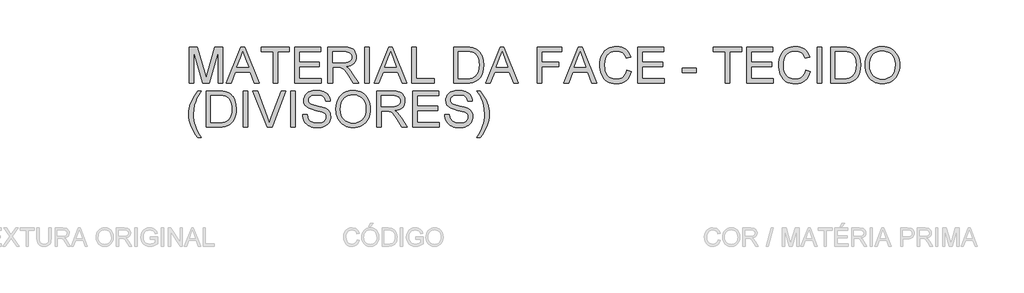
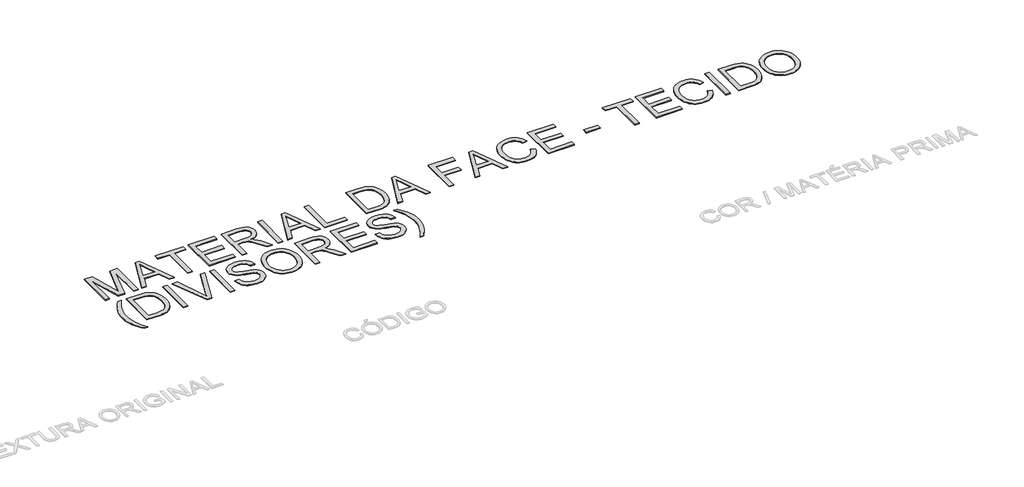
# One storey, part 55 of 67: 1 proxy.
"""IFC4 building model written with IfcOpenShell, lengths in millimetres."""

from ifc_helpers import new_model, si_unit, origin, origin_with_axes, place, context, project, spatial, polyline, outline, extrude, element, save

model = new_model("IFC4")

# Units and contexts
model_context = context("Model", 3, world=origin())
ifc_project = project(units=[si_unit("LENGTHUNIT", "METRE", prefix="MILLI")], contexts=[model_context])

# Site, building, storey
site = spatial("IfcSite", under=ifc_project)
building = spatial("IfcBuilding", under=site)
storey = spatial("IfcBuildingStorey", under=building, Name="Marelli - Linha COLAB - Planta Baixa", Elevation=0.0)

# Proxy
placement = place(None, origin())
element("IfcBuildingElementProxy", 1, Name="600mm Arial", ObjectType="600mm Arial", at=placement, inside=storey, context=model_context, shape_type="SweptSolid", body=[
    extrude(outline(polyline([(-2493.6164873, -21064.6418665), (-2493.6164873, -20461.9040056), (-2363.9748722, -20461.9040056), (-2240.6608274, -20886.7341337), (-2215.7920046, -20975.4672709), (-2188.8630425, -20879.3764938), (-2067.6091369, -20461.9040056), (-1937.9675218, -20461.9040056), (-1937.9675218, -21064.6418665), (-2013.3097544, -21064.6418665), (-2013.3097544, -20537.2462382), (-2164.7299836, -21064.6418665), (-2266.8540255, -21064.6418665), (-2418.2742547, -20537.2462382), (-2418.2742547, -21064.6418665), (-2493.6164873, -21064.6418665)])), origin_with_axes(), (0.0, 0.0, 1.0), 10.0),
    extrude(outline(polyline([(-1876.3104994, -21064.6418665), (-1635.7156746, -20461.9040056), (-1571.5570546, -20461.9040056), (-1330.9622298, -21064.6418665), (-1410.5718935, -21064.6418665), (-1479.5865558, -20876.286285), (-1727.8333261, -20876.286285), (-1796.7008356, -21064.6418665), (-1876.3104994, -21064.6418665)]), holes=[polyline([(-1700.1686001, -20800.9440524), (-1507.104129, -20800.9440524), (-1561.4035115, -20652.7611847), (-1603.6363646, -20537.2462382), (-1641.1603281, -20639.8117385), (-1700.1686001, -20800.9440524)])]), origin_with_axes(), (0.0, 0.0, 1.0), 10.0),
    extrude(outline(polyline([(-1099.785184, -21064.6418665), (-1099.785184, -20537.2462382), (-1297.5585446, -20537.2462382), (-1297.5585446, -20461.9040056), (-826.6695908, -20461.9040056), (-826.6695908, -20537.2462382), (-1024.4429514, -20537.2462382), (-1024.4429514, -21064.6418665), (-1099.785184, -21064.6418665)])), origin_with_axes(), (0.0, 0.0, 1.0), 10.0),
    extrude(outline(polyline([(-741.9095791, -21064.6418665), (-741.9095791, -20461.9040056), (-308.6917416, -20461.9040056), (-308.6917416, -20537.2462382), (-666.5673465, -20537.2462382), (-666.5673465, -20716.1840407), (-327.5272997, -20716.1840407), (-327.5272997, -20791.5262733), (-666.5673465, -20791.5262733), (-666.5673465, -20989.2996339), (-299.2739625, -20989.2996339), (-299.2739625, -21064.6418665), (-741.9095791, -21064.6418665)])), origin_with_axes(), (0.0, 0.0, 1.0), 10.0),
    extrude(outline(polyline([(-186.2606136, -21064.6418665), (-186.2606136, -20461.9040056), (73.464075, -20461.9040056), (143.2696836, -20465.9691017), (194.0557931, -20478.1643898), (213.6547063, -20487.8580804), (231.1750864, -20500.6787679), (246.6169331, -20516.6264524), (259.9802466, -20535.7011339), (270.7637876, -20556.8773412), (278.4663168, -20579.1296034), (283.0878344, -20602.4579204), (284.6283403, -20626.8622923), (282.0761589, -20657.8195622), (274.4196149, -20686.2384463), (261.6587082, -20712.1189447), (243.7934388, -20735.4610572), (220.5938805, -20755.519823), (191.830107, -20771.550281), (157.5021183, -20783.5524311), (117.6099145, -20791.5262733), (142.4419491, -20807.7498693), (160.4313787, -20823.7527361), (191.2966781, -20860.3569946), (221.4997899, -20901.3022607), (322.005151, -21064.6418665), (234.4492361, -21064.6418665), (156.0167948, -20939.709141), (99.3629675, -20857.0092685), (78.3017233, -20832.8946037), (59.5581356, -20817.9402006), (23.7264293, -20803.5928028), (-19.9779517, -20800.9440524), (-110.9183809, -20800.9440524), (-110.9183809, -21064.6418665), (-186.2606136, -21064.6418665)]), holes=[polyline([(-110.9183809, -20725.6018198), (57.7187256, -20725.6018198), (106.1503903, -20722.9346753), (143.7295361, -20714.9332419), (172.0196615, -20701.0640907), (192.5842651, -20680.7937928), (205.110647, -20656.2744578), (209.2861077, -20629.6581954), (207.2949464, -20610.3903759), (201.3214625, -20592.9067841), (191.365656, -20577.20742), (177.4275269, -20563.2922835), (159.1851784, -20551.8971387), (136.3167139, -20543.7577496), (108.8221333, -20538.8741161), (76.7014366, -20537.2462382), (-110.9183809, -20537.2462382), (-110.9183809, -20725.6018198)])]), origin_with_axes(), (0.0, 0.0, 1.0), 10.0),
    extrude(outline(polyline([(425.8950264, -21064.6418665), (425.8950264, -20461.9040056), (501.237259, -20461.9040056), (501.237259, -21064.6418665), (425.8950264, -21064.6418665)])), origin_with_axes(), (0.0, 0.0, 1.0), 10.0),
    extrude(outline(polyline([(581.7298396, -21064.6418665), (822.3246644, -20461.9040056), (886.4832844, -20461.9040056), (1127.0781092, -21064.6418665), (1047.4684455, -21064.6418665), (978.4537832, -20876.286285), (730.2070128, -20876.286285), (661.3395033, -21064.6418665), (581.7298396, -21064.6418665)]), holes=[polyline([(757.8717389, -20800.9440524), (950.9362099, -20800.9440524), (896.6368274, -20652.7611847), (854.4039744, -20537.2462382), (816.8800109, -20639.8117385), (757.8717389, -20800.9440524)])]), origin_with_axes(), (0.0, 0.0, 1.0), 10.0),
    extrude(outline(polyline([(1207.5706898, -21064.6418665), (1207.5706898, -20461.9040056), (1282.9129224, -20461.9040056), (1282.9129224, -20989.2996339), (1584.2818528, -20989.2996339), (1584.2818528, -21064.6418665), (1207.5706898, -21064.6418665)])), origin_with_axes(), (0.0, 0.0, 1.0), 10.0),
    extrude(outline(polyline([(1904.4863414, -21064.6418665), (1904.4863414, -20461.9040056), (2112.4132451, -20461.9040056), (2174.5485141, -20464.0745094), (2219.9819405, -20470.5860207), (2268.0273291, -20487.3246515), (2308.5679249, -20513.7017906), (2330.9075591, -20535.2596755), (2350.248955, -20559.6134636), (2366.5921126, -20586.7631548), (2379.937032, -20616.7087492), (2390.3021072, -20649.1743353), (2397.7057324, -20683.8840015), (2403.6286325, -20760.0355745), (2399.6187187, -20824.7276234), (2387.5889775, -20881.6573621), (2369.2684541, -20930.125815), (2346.386194, -20969.4340062), (2320.0458432, -21000.4648525), (2291.3510476, -21024.1012707), (2258.4072149, -21041.6308477), (2219.3197529, -21054.3411707), (2174.0150852, -21062.0666926), (2122.4196354, -21064.6418665), (1904.4863414, -21064.6418665)]), holes=[polyline([(1979.828574, -20989.2996339), (2113.1490091, -20989.2996339), (2168.2945202, -20986.5773072), (2210.122703, -20978.4103269), (2241.6869782, -20965.2769396), (2266.0407663, -20947.6553921), (2292.2155702, -20915.0426532), (2311.8788629, -20872.8281942), (2324.1845156, -20820.8280742), (2328.2863999, -20758.8583521), (2326.2768445, -20715.1171829), (2320.2481783, -20676.7470908), (2310.2004013, -20643.7480759), (2296.1335135, -20616.120138), (2279.1879491, -20593.2378779), (2260.5041423, -20574.4758962), (2240.082093, -20559.8341928), (2217.9218013, -20549.3127677), (2174.5853023, -20540.2628706), (2111.0888699, -20537.2462382), (1979.828574, -20537.2462382), (1979.828574, -20989.2996339)])]), origin_with_axes(), (0.0, 0.0, 1.0), 10.0),
    extrude(outline(polyline([(2437.0323176, -21064.6418665), (2677.6271425, -20461.9040056), (2741.7857625, -20461.9040056), (2982.3805873, -21064.6418665), (2902.7709235, -21064.6418665), (2833.7562612, -20876.286285), (2585.5094909, -20876.286285), (2516.6419814, -21064.6418665), (2437.0323176, -21064.6418665)]), holes=[polyline([(2613.1742169, -20800.9440524), (2806.238688, -20800.9440524), (2751.9393055, -20652.7611847), (2709.7064525, -20537.2462382), (2672.182489, -20639.8117385), (2613.1742169, -20800.9440524)])]), origin_with_axes(), (0.0, 0.0, 1.0), 10.0),
    extrude(outline(polyline([(3298.3176448, -21064.6418665), (3298.3176448, -20461.9040056), (3703.282145, -20461.9040056), (3703.282145, -20537.2462382), (3373.6598774, -20537.2462382), (3373.6598774, -20716.1840407), (3656.1932497, -20716.1840407), (3656.1932497, -20791.5262733), (3373.6598774, -20791.5262733), (3373.6598774, -21064.6418665), (3298.3176448, -21064.6418665)])), origin_with_axes(), (0.0, 0.0, 1.0), 10.0),
    extrude(outline(polyline([(3736.6858302, -21064.6418665), (3977.2806551, -20461.9040056), (4041.439275, -20461.9040056), (4282.0340999, -21064.6418665), (4202.4244361, -21064.6418665), (4133.4097738, -20876.286285), (3885.1630035, -20876.286285), (3816.295494, -21064.6418665), (3736.6858302, -21064.6418665)]), holes=[polyline([(3912.8277295, -20800.9440524), (4105.8922006, -20800.9440524), (4051.5928181, -20652.7611847), (4009.359965, -20537.2462382), (3971.8360015, -20639.8117385), (3912.8277295, -20800.9440524)])]), origin_with_axes(), (0.0, 0.0, 1.0), 10.0),
    extrude(outline(polyline([(4786.3267388, -20850.3873925), (4861.6689715, -20869.8115619), (4846.7605536, -20916.6659325), (4826.9041229, -20957.6066), (4802.0996794, -20992.6335645), (4772.347223, -21021.7468259), (4738.3181385, -21044.6336845), (4700.6838104, -21060.9814407), (4659.4442387, -21070.7900944), (4614.5994235, -21074.0596456), (4568.6555608, -21071.5856392), (4527.2090555, -21064.1636199), (4490.2599077, -21051.7935879), (4457.8081172, -21034.4755429), (4429.4076271, -21012.4670026), (4404.6123807, -20986.0254842), (4383.4223777, -20955.1509877), (4365.8376184, -20919.8435132), (4352.028248, -20881.629771), (4342.164412, -20842.0364713), (4336.2461104, -20801.063614), (4334.2733432, -20758.7111993), (4336.5036278, -20713.2685759), (4343.1944816, -20670.8241907), (4354.3459045, -20631.3780438), (4369.9578967, -20594.9301351), (4389.6809702, -20562.0828714), (4413.165637, -20533.4386596), (4440.4118973, -20508.9974995), (4471.419751, -20488.7593913), (4505.1361358, -20472.8898817), (4540.5079897, -20461.5545177), (4577.5353125, -20454.7532994), (4616.2181043, -20452.4862266), (4659.3108815, -20455.4200855), (4698.8260063, -20464.2216622), (4734.7634787, -20478.8909568), (4767.1232987, -20499.4279691), (4795.3720374, -20525.2900734), (4818.9762659, -20555.9346436), (4837.9359842, -20591.3616797), (4852.2511924, -20631.5711818), (4776.9089598, -20649.5238232), (4765.0447654, -20619.895527), (4750.7893381, -20594.5806472), (4734.1426778, -20573.5791838), (4715.1047846, -20556.8911368), (4693.5652938, -20544.1762153), (4669.4138408, -20535.0941286), (4642.6504256, -20529.6448765), (4613.2750483, -20527.8284592), (4579.47589, -20529.8426131), (4548.5646054, -20535.8850749), (4520.5411944, -20545.9558445), (4495.4056571, -20560.0549219), (4473.4752916, -20577.5477108), (4455.0673963, -20597.7996147), (4440.1819711, -20620.8106335), (4428.8190159, -20646.5807672), (4414.4164358, -20701.7262783), (4409.6155758, -20758.5640465), (4415.2993526, -20828.16732), (4422.4040736, -20859.4372896), (4432.3506831, -20888.3528144), (4445.3001293, -20914.3390789), (4461.4133607, -20936.8212673), (4480.6903773, -20955.7993797), (4503.131179, -20971.2734162), (4527.6459154, -20983.2801648), (4553.1447362, -20991.8564138), (4579.6276413, -20997.0021632), (4607.0946308, -20998.717413), (4639.8499239, -20996.3813623), (4669.9840579, -20989.3732103), (4697.4970326, -20977.692957), (4722.3888481, -20961.3406023), (4744.0708932, -20940.3897227), (4761.9545567, -20914.9138945), (4776.0398386, -20884.9131178), (4786.3267388, -20850.3873925)])), origin_with_axes(), (0.0, 0.0, 1.0), 10.0),
    extrude(outline(polyline([(4965.2645413, -21064.6418665), (4965.2645413, -20461.9040056), (5398.4823788, -20461.9040056), (5398.4823788, -20537.2462382), (5040.6067739, -20537.2462382), (5040.6067739, -20716.1840407), (5379.6468207, -20716.1840407), (5379.6468207, -20791.5262733), (5040.6067739, -20791.5262733), (5040.6067739, -20989.2996339), (5407.9001579, -20989.2996339), (5407.9001579, -21064.6418665), (4965.2645413, -21064.6418665)])), origin_with_axes(), (0.0, 0.0, 1.0), 10.0),
    extrude(outline(polyline([(5709.2690883, -20885.7040641), (5709.2690883, -20810.3618315), (5944.7135653, -20810.3618315), (5944.7135653, -20885.7040641), (5709.2690883, -20885.7040641)])), origin_with_axes(), (0.0, 0.0, 1.0), 10.0),
    extrude(outline(polyline([(6425.0202982, -21064.6418665), (6425.0202982, -20537.2462382), (6227.2469376, -20537.2462382), (6227.2469376, -20461.9040056), (6698.1358914, -20461.9040056), (6698.1358914, -20537.2462382), (6500.3625308, -20537.2462382), (6500.3625308, -21064.6418665), (6425.0202982, -21064.6418665)])), origin_with_axes(), (0.0, 0.0, 1.0), 10.0),
    extrude(outline(polyline([(6782.8959031, -21064.6418665), (6782.8959031, -20461.9040056), (7216.1137406, -20461.9040056), (7216.1137406, -20537.2462382), (6858.2381357, -20537.2462382), (6858.2381357, -20716.1840407), (7197.2781824, -20716.1840407), (7197.2781824, -20791.5262733), (6858.2381357, -20791.5262733), (6858.2381357, -20989.2996339), (7225.5315197, -20989.2996339), (7225.5315197, -21064.6418665), (6782.8959031, -21064.6418665)])), origin_with_axes(), (0.0, 0.0, 1.0), 10.0),
    extrude(outline(polyline([(7762.344927, -20850.3873925), (7837.6871596, -20869.8115619), (7822.7787418, -20916.6659325), (7802.9223111, -20957.6066), (7778.1178676, -20992.6335645), (7748.3654112, -21021.7468259), (7714.3363267, -21044.6336845), (7676.7019986, -21060.9814407), (7635.4624269, -21070.7900944), (7590.6176117, -21074.0596456), (7544.673749, -21071.5856392), (7503.2272437, -21064.1636199), (7466.2780958, -21051.7935879), (7433.8263053, -21034.4755429), (7405.4258153, -21012.4670026), (7380.6305688, -20986.0254842), (7359.4405659, -20955.1509877), (7341.8558065, -20919.8435132), (7328.0464361, -20881.629771), (7318.1826002, -20842.0364713), (7312.2642986, -20801.063614), (7310.2915314, -20758.7111993), (7312.521816, -20713.2685759), (7319.2126697, -20670.8241907), (7330.3640927, -20631.3780438), (7345.9760849, -20594.9301351), (7365.6991584, -20562.0828714), (7389.1838252, -20533.4386596), (7416.4300855, -20508.9974995), (7447.4379392, -20488.7593913), (7481.154324, -20472.8898817), (7516.5261779, -20461.5545177), (7553.5535007, -20454.7532994), (7592.2362925, -20452.4862266), (7635.3290697, -20455.4200855), (7674.8441945, -20464.2216622), (7710.7816669, -20478.8909568), (7743.1414869, -20499.4279691), (7771.3902256, -20525.2900734), (7794.9944541, -20555.9346436), (7813.9541724, -20591.3616797), (7828.2693806, -20631.5711818), (7752.927148, -20649.5238232), (7741.0629536, -20619.895527), (7726.8075263, -20594.5806472), (7710.160866, -20573.5791838), (7691.1229728, -20556.8911368), (7669.5834819, -20544.1762153), (7645.432029, -20535.0941286), (7618.6686138, -20529.6448765), (7589.2932365, -20527.8284592), (7555.4940782, -20529.8426131), (7524.5827935, -20535.8850749), (7496.5593826, -20545.9558445), (7471.4238452, -20560.0549219), (7449.4934798, -20577.5477108), (7431.0855845, -20597.7996147), (7416.2001592, -20620.8106335), (7404.8372041, -20646.5807672), (7390.434624, -20701.7262783), (7385.633764, -20758.5640465), (7391.3175408, -20828.16732), (7398.4222618, -20859.4372896), (7408.3688713, -20888.3528144), (7421.3183175, -20914.3390789), (7437.4315489, -20936.8212673), (7456.7085654, -20955.7993797), (7479.1493671, -20971.2734162), (7503.6641036, -20983.2801648), (7529.1629244, -20991.8564138), (7555.6458295, -20997.0021632), (7583.112819, -20998.717413), (7615.8681121, -20996.3813623), (7646.0022461, -20989.3732103), (7673.5152208, -20977.692957), (7698.4070363, -20961.3406023), (7720.0890814, -20940.3897227), (7737.9727448, -20914.9138945), (7752.0580267, -20884.9131178), (7762.344927, -20850.3873925)])), origin_with_axes(), (0.0, 0.0, 1.0), 10.0),
    extrude(outline(polyline([(7950.7005086, -21064.6418665), (7950.7005086, -20461.9040056), (8026.0427412, -20461.9040056), (8026.0427412, -21064.6418665), (7950.7005086, -21064.6418665)])), origin_with_axes(), (0.0, 0.0, 1.0), 10.0),
    extrude(outline(polyline([(8176.7272064, -21064.6418665), (8176.7272064, -20461.9040056), (8384.6541101, -20461.9040056), (8446.7893791, -20464.0745094), (8492.2228055, -20470.5860207), (8540.268194, -20487.3246515), (8580.8087899, -20513.7017906), (8603.1484241, -20535.2596755), (8622.48982, -20559.6134636), (8638.8329776, -20586.7631548), (8652.177897, -20616.7087492), (8662.5429722, -20649.1743353), (8669.9465973, -20683.8840015), (8675.8694975, -20760.0355745), (8671.8595837, -20824.7276234), (8659.8298425, -20881.6573621), (8641.5093191, -20930.125815), (8618.627059, -20969.4340062), (8592.2867081, -21000.4648525), (8563.5919125, -21024.1012707), (8530.6480799, -21041.6308477), (8491.5606179, -21054.3411707), (8446.2559502, -21062.0666926), (8394.6605003, -21064.6418665), (8176.7272064, -21064.6418665)]), holes=[polyline([(8252.069439, -20989.2996339), (8385.3898741, -20989.2996339), (8440.5353851, -20986.5773072), (8482.363568, -20978.4103269), (8513.9278432, -20965.2769396), (8538.2816313, -20947.6553921), (8564.4564352, -20915.0426532), (8584.1197279, -20872.8281942), (8596.4253806, -20820.8280742), (8600.5272648, -20758.8583521), (8598.5177094, -20715.1171829), (8592.4890432, -20676.7470908), (8582.4412663, -20643.7480759), (8568.3743785, -20616.120138), (8551.4288141, -20593.2378779), (8532.7450072, -20574.4758962), (8512.322958, -20559.8341928), (8490.1626663, -20549.3127677), (8446.8261673, -20540.2628706), (8383.3297349, -20537.2462382), (8252.069439, -20537.2462382), (8252.069439, -20989.2996339)])]), origin_with_axes(), (0.0, 0.0, 1.0), 10.0),
    extrude(outline(polyline([(8751.2117301, -20771.2191872), (8756.2333193, -20700.5214648), (8771.298087, -20637.9355403), (8796.4060332, -20583.4614139), (8812.7261982, -20559.2662749), (8831.5571578, -20537.0990854), (8874.6453365, -20500.0809597), (8923.5644448, -20473.6394413), (8978.3144827, -20457.7745302), (9038.8954503, -20452.4862266), (9079.4452432, -20454.96943), (9117.9532911, -20462.4190404), (9154.4195938, -20474.8350578), (9188.8441515, -20492.217482), (9220.2612739, -20514.0420814), (9247.7052708, -20539.784624), (9271.176142, -20569.4451099), (9290.6738878, -20603.023539), (9305.9961729, -20639.7565562), (9316.9406622, -20678.8808064), (9323.5073559, -20720.3962895), (9325.6962537, -20764.3030057), (9323.3923927, -20808.7891359), (9316.4808098, -20850.8656391), (9304.9615048, -20890.5325153), (9288.8344778, -20927.7897643), (9268.4814064, -20961.653302), (9244.2839682, -20991.1390439), (9216.2421631, -21016.2469901), (9184.3559912, -21036.9771405), (9149.8808497, -21053.2007365), (9114.072136, -21064.7890193), (9076.9298501, -21071.741989), (9038.4539919, -21074.0596456), (8997.1960261, -21071.4982672), (8958.1821406, -21063.814132), (8921.4123351, -21051.0072401), (8886.8866099, -21033.0775913), (8855.5062757, -21010.7195631), (8828.1726435, -20984.6275326), (8804.8857132, -20954.8014998), (8785.6454848, -20921.2414648), (8770.5807171, -20885.2947954), (8759.8201688, -20848.3088593), (8753.3638397, -20810.2836565), (8751.2117301, -20771.2191872)]), holes=[polyline([(8826.5539627, -20771.9549512), (8830.3201546, -20821.9041291), (8841.6187304, -20866.2431065), (8860.44969, -20904.9718836), (8886.8130335, -20938.0904602), (8918.8601538, -20964.614752), (8954.7424439, -20983.5606748), (8994.4599038, -20994.9282284), (9038.0125335, -20998.717413), (9082.3101242, -20994.8914402), (9122.4966337, -20983.413522), (9158.5720618, -20964.2836582), (9190.5364087, -20937.501849), (9216.7066141, -20903.6842966), (9235.399618, -20863.4472034), (9246.6154203, -20816.7905693), (9250.3540211, -20763.7143945), (9248.7537344, -20729.2346545), (9243.9528744, -20697.0173888), (9235.951441, -20667.0625973), (9224.7494343, -20639.3702801), (9210.4710143, -20614.3037207), (9193.2403414, -20592.2262024), (9173.0574154, -20573.1377254), (9149.9222364, -20557.0382896), (9124.5521743, -20544.2589888), (9097.664599, -20535.1309168), (9069.2595105, -20529.6540736), (9039.3369087, -20527.8284592), (8997.2971937, -20531.3463307), (8958.2925051, -20541.8999455), (8922.3228431, -20559.4893034), (8889.3882075, -20584.1144044), (8861.8982254, -20616.9616681), (8842.2625239, -20659.2175137), (8830.481103, -20710.8819414), (8826.5539627, -20771.9549512)])]), origin_with_axes(), (0.0, 0.0, 1.0), 10.0),
    extrude(outline(polyline([(-2352.3498012, -21966.010797), (-2382.7644451, -21926.6566205), (-2410.7326738, -21884.0834767), (-2436.2544872, -21838.2913653), (-2459.3298854, -21789.2802865), (-2478.4505521, -21738.1998715), (-2492.1081711, -21686.1997514), (-2500.3027426, -21633.2799264), (-2503.0342664, -21579.4403964), (-2500.9925213, -21532.1215748), (-2494.8672861, -21485.8144287), (-2484.6585607, -21440.518958), (-2470.3663452, -21396.2351629), (-2448.6429134, -21345.4490534), (-2421.7323455, -21294.7733086), (-2389.6346414, -21244.2079283), (-2352.3498012, -21193.7529127), (-2295.8431267, -21193.7529127), (-2340.1729071, -21265.3795372), (-2366.329317, -21313.0938319), (-2390.3887995, -21369.7476592), (-2408.7093228, -21428.7559312), (-2422.946356, -21504.134952), (-2427.6920338, -21579.8818548), (-2425.6318946, -21628.1801623), (-2419.4514771, -21676.4692727), (-2409.1507812, -21724.749186), (-2394.729807, -21773.0199023), (-2376.1885544, -21821.2814216), (-2353.5270235, -21869.5337437), (-2326.7452143, -21917.7768689), (-2295.8431267, -21966.010797), (-2352.3498012, -21966.010797)])), origin_with_axes(), (0.0, 0.0, 1.0), 10.0),
    extrude(outline(polyline([(-2211.083115, -21796.4907736), (-2211.083115, -21193.7529127), (-2003.1562113, -21193.7529127), (-1941.0209424, -21195.9234165), (-1895.5875159, -21202.4349278), (-1847.5421274, -21219.1735586), (-1807.0015315, -21245.5506976), (-1784.6618974, -21267.1085825), (-1765.3205015, -21291.4623706), (-1748.9773438, -21318.6120619), (-1735.6324244, -21348.5576563), (-1725.2673492, -21381.0232424), (-1717.8637241, -21415.7329086), (-1711.940824, -21491.8844816), (-1715.9507377, -21556.5765304), (-1727.9804789, -21613.5062692), (-1746.3010023, -21661.9747221), (-1769.1832624, -21701.2829133), (-1795.5236133, -21732.3137595), (-1824.2184089, -21755.9501777), (-1857.1622416, -21773.4797548), (-1896.2497035, -21786.1900777), (-1941.5543712, -21793.9155996), (-1993.1498211, -21796.4907736), (-2211.083115, -21796.4907736)]), holes=[polyline([(-2135.7408824, -21721.148541), (-2002.4204473, -21721.148541), (-1947.2749363, -21718.4262142), (-1905.4467534, -21710.2592339), (-1873.8824782, -21697.1258467), (-1849.5286902, -21679.5042991), (-1823.3538862, -21646.8915603), (-1803.6905936, -21604.6771013), (-1791.3849408, -21552.6769813), (-1787.2830566, -21490.7072592), (-1789.292612, -21446.96609), (-1795.3212782, -21408.5959979), (-1805.3690552, -21375.5969829), (-1819.4359429, -21347.9690451), (-1836.3815074, -21325.086785), (-1855.0653142, -21306.3248032), (-1875.4873634, -21291.6830998), (-1897.6476551, -21281.1616748), (-1940.9841542, -21272.1117777), (-2004.4805865, -21269.0951453), (-2135.7408824, -21269.0951453), (-2135.7408824, -21721.148541)])]), origin_with_axes(), (0.0, 0.0, 1.0), 10.0),
    extrude(outline(polyline([(-1598.927475, -21796.4907736), (-1598.927475, -21193.7529127), (-1523.5852424, -21193.7529127), (-1523.5852424, -21796.4907736), (-1598.927475, -21796.4907736)])), origin_with_axes(), (0.0, 0.0, 1.0), 10.0),
    extrude(outline(polyline([(-1194.8458915, -21796.4907736), (-1434.7049524, -21193.7529127), (-1354.065219, -21193.7529127), (-1193.5215164, -21628.0008198), (-1161.000748, -21725.8574305), (-1128.921438, -21628.0008198), (-967.9362769, -21193.7529127), (-887.2965436, -21193.7529127), (-1117.0020614, -21796.4907736), (-1194.8458915, -21796.4907736)])), origin_with_axes(), (0.0, 0.0, 1.0), 10.0),
    extrude(outline(polyline([(-807.8340326, -21796.4907736), (-807.8340326, -21193.7529127), (-732.4918, -21193.7529127), (-732.4918, -21796.4907736), (-807.8340326, -21796.4907736)])), origin_with_axes(), (0.0, 0.0, 1.0), 10.0),
    extrude(outline(polyline([(-610.060672, -21589.2996339), (-534.7184394, -21589.2996339), (-526.0732125, -21631.1094227), (-510.4382277, -21664.7154429), (-486.0476514, -21691.3868876), (-451.1356501, -21712.3929495), (-408.4613386, -21726.0229774), (-360.7838321, -21730.5663201), (-318.8084964, -21727.1266234), (-282.0570851, -21716.8075334), (-252.2770376, -21700.4735729), (-231.2157934, -21678.9892643), (-218.6894114, -21654.3227766), (-214.5139508, -21628.4422782), (-217.6409477, -21603.2239674), (-227.0219386, -21581.4269592), (-246.078226, -21562.8305244), (-278.2311124, -21547.2139337), (-387.9335233, -21518.4455616), (-459.9464239, -21499.4076684), (-506.0236438, -21481.2894801), (-543.5292132, -21455.9424107), (-570.1086873, -21425.2242641), (-585.9460072, -21389.7972279), (-591.2251139, -21350.3234899), (-589.5926375, -21327.8872867), (-584.6952084, -21306.1960445), (-576.5328267, -21285.2497634), (-565.1054922, -21265.0484434), (-550.5419637, -21246.4152203), (-532.9709999, -21230.1732302), (-512.3926008, -21216.3224731), (-488.8067664, -21204.862949), (-435.7949709, -21189.4670875), (-377.1177927, -21184.3351336), (-313.5477839, -21189.7062108), (-257.9240262, -21205.8194421), (-233.5886322, -21217.8215922), (-212.2330824, -21232.343734), (-193.8573768, -21249.3858674), (-178.4615153, -21268.9479925), (-166.1650596, -21290.4598922), (-157.0875713, -21313.3513493), (-151.2290506, -21337.622364), (-148.5894973, -21363.2729361), (-223.9317299, -21363.2729361), (-228.9717132, -21339.2318477), (-237.7640929, -21318.3177563), (-250.3088689, -21300.5306618), (-266.6060413, -21285.8705643), (-286.9591127, -21274.4110401), (-311.6715857, -21266.2256658), (-340.7434604, -21261.3144411), (-374.1747367, -21259.6773662), (-408.6728708, -21261.296047), (-438.1494157, -21266.1520894), (-462.6043713, -21274.2454933), (-482.0377377, -21285.5762587), (-496.844988, -21299.1970896), (-507.4215953, -21314.1606897), (-513.7675598, -21330.4670592), (-515.8828812, -21348.1161979), (-514.3837621, -21363.3005272), (-509.8864047, -21377.0685109), (-502.3908091, -21389.4201489), (-491.8969752, -21400.3554412), (-475.3790736, -21410.7113194), (-449.3698165, -21421.1775621), (-368.877236, -21442.4411414), (-285.8094815, -21462.637863), (-235.5568009, -21480.2594105), (-192.606578, -21507.5930428), (-176.0013044, -21523.6602889), (-162.6425895, -21541.3278217), (-152.3740833, -21560.5036707), (-145.039436, -21581.0958654), (-139.1717182, -21626.5292918), (-140.8593768, -21650.0967321), (-145.9223528, -21672.9743937), (-154.3606461, -21695.1622766), (-166.1742566, -21716.6603807), (-181.1562509, -21736.636373), (-199.0996952, -21754.2579206), (-220.0045896, -21769.5250234), (-243.870934, -21782.4376814), (-270.0043512, -21792.7061876), (-297.710464, -21800.0408349), (-357.8407761, -21805.9085527), (-396.3810136, -21804.3266601), (-431.6562984, -21799.5809824), (-463.6666305, -21791.6715195), (-492.4120099, -21780.5982714), (-518.0671806, -21766.3428441), (-540.8068864, -21748.8868434), (-560.6311274, -21728.2302694), (-577.5399036, -21704.373122), (-591.1607345, -21678.0879535), (-601.1211395, -21650.1473159), (-607.4211187, -21620.5512094), (-610.060672, -21589.2996339)])), origin_with_axes(), (0.0, 0.0, 1.0), 10.0),
    extrude(outline(polyline([(-54.4117065, -21503.0680943), (-49.3901173, -21432.3703718), (-34.3253496, -21369.7844474), (-9.2174034, -21315.310321), (7.1027616, -21291.115182), (25.9337213, -21268.9479925), (69.0218999, -21231.9298668), (117.9410083, -21205.4883484), (172.6910462, -21189.6234373), (233.2720137, -21184.3351336), (273.8218067, -21186.8183371), (312.3298545, -21194.2679475), (348.7961573, -21206.6839648), (383.220715, -21224.0663891), (414.6378374, -21245.8909885), (442.0818342, -21271.6335311), (465.5527055, -21301.2940169), (485.0504512, -21334.8724461), (500.3727363, -21371.6054633), (511.3172257, -21410.7297135), (517.8839193, -21452.2451966), (520.0728172, -21496.1519127), (517.7689562, -21540.638043), (510.8573732, -21582.7145462), (499.3380682, -21622.3814223), (483.2110413, -21659.6386714), (462.8579699, -21693.5022091), (438.6605316, -21722.987951), (410.6187266, -21748.0958971), (378.7325546, -21768.8260476), (344.2574132, -21785.0496436), (308.4486995, -21796.6379264), (271.3064135, -21803.5908961), (232.8305553, -21805.9085527), (191.5725896, -21803.3471743), (152.558704, -21795.6630391), (115.7888986, -21782.8561472), (81.2631733, -21764.9264984), (49.8828391, -21742.5684702), (22.5492069, -21716.4764397), (-0.7377234, -21686.6504069), (-19.9779517, -21653.0903719), (-35.0427194, -21617.1437024), (-45.8032678, -21580.1577663), (-52.2595968, -21542.1325636), (-54.4117065, -21503.0680943)]), holes=[polyline([(20.9305261, -21503.8038582), (24.696718, -21553.7530361), (35.9952938, -21598.0920136), (54.8262535, -21636.8207906), (81.1895969, -21669.9393673), (113.2367172, -21696.4636591), (149.1190073, -21715.4095819), (188.8364672, -21726.7771355), (232.389097, -21730.5663201), (276.6866877, -21726.7403473), (316.8731971, -21715.2624291), (352.9486253, -21696.1325653), (384.9129722, -21669.3507561), (411.0831776, -21635.5332037), (429.7761815, -21595.2961104), (440.9919838, -21548.6394764), (444.7305846, -21495.5633015), (443.1302979, -21461.0835616), (438.3294379, -21428.8662958), (430.3280045, -21398.9115044), (419.1259977, -21371.2191872), (404.8475778, -21346.1526277), (387.6169048, -21324.0751095), (367.4339789, -21304.9866325), (344.2987999, -21288.8871967), (318.9287378, -21276.1078959), (292.0411625, -21266.9798238), (263.6360739, -21261.5029806), (233.7134721, -21259.6773662), (191.6737571, -21263.1952378), (152.6690686, -21273.7488526), (116.6994065, -21291.3382105), (83.7647709, -21315.9633115), (56.2747888, -21348.8105751), (36.6390873, -21391.0664208), (24.8576664, -21442.7308485), (20.9305261, -21503.8038582)])]), origin_with_axes(), (0.0, 0.0, 1.0), 10.0),
    extrude(outline(polyline([(623.668387, -21796.4907736), (623.668387, -21193.7529127), (883.3930756, -21193.7529127), (953.1986842, -21197.8180088), (1003.9847936, -21210.0132969), (1023.5837069, -21219.7069875), (1041.1040869, -21232.527675), (1056.5459337, -21248.4753595), (1069.9092472, -21267.5500409), (1080.6927882, -21288.7262483), (1088.3953174, -21310.9785105), (1093.016835, -21334.3068275), (1094.5573408, -21358.7111993), (1092.0051595, -21389.6684692), (1084.3486155, -21418.0873534), (1071.5877088, -21443.9678517), (1053.7224394, -21467.3099643), (1030.5228811, -21487.3687301), (1001.7591076, -21503.399188), (967.4311189, -21515.4013381), (927.538915, -21523.3751804), (952.3709497, -21539.5987764), (970.3603793, -21555.6016432), (1001.2256787, -21592.2059017), (1031.4287905, -21633.1511677), (1131.9341516, -21796.4907736), (1044.3782367, -21796.4907736), (965.9457953, -21671.558048), (909.2919681, -21588.8581755), (888.2307239, -21564.7435107), (869.4871362, -21549.7891076), (833.6554299, -21535.4417098), (789.9510488, -21532.7929595), (699.0106196, -21532.7929595), (699.0106196, -21796.4907736), (623.668387, -21796.4907736)]), holes=[polyline([(699.0106196, -21457.4507268), (867.6477262, -21457.4507268), (916.0793909, -21454.7835824), (953.6585367, -21446.782149), (981.9486621, -21432.9129978), (1002.5132657, -21412.6426998), (1015.0396476, -21388.1233649), (1019.2151082, -21361.5071025), (1017.2239469, -21342.239283), (1011.250463, -21324.7556912), (1001.2946565, -21309.056327), (987.3565275, -21295.1411906), (969.114179, -21283.7460458), (946.2457145, -21275.6066566), (918.7511339, -21270.7230231), (886.6304372, -21269.0951453), (699.0106196, -21269.0951453), (699.0106196, -21457.4507268)])]), origin_with_axes(), (0.0, 0.0, 1.0), 10.0),
    extrude(outline(polyline([(1226.4062479, -21796.4907736), (1226.4062479, -21193.7529127), (1659.6240854, -21193.7529127), (1659.6240854, -21269.0951453), (1301.7484805, -21269.0951453), (1301.7484805, -21448.0329478), (1640.7885273, -21448.0329478), (1640.7885273, -21523.3751804), (1301.7484805, -21523.3751804), (1301.7484805, -21721.148541), (1669.0418645, -21721.148541), (1669.0418645, -21796.4907736), (1226.4062479, -21796.4907736)])), origin_with_axes(), (0.0, 0.0, 1.0), 10.0),
    extrude(outline(polyline([(1753.8018762, -21589.2996339), (1829.1441088, -21589.2996339), (1837.7893357, -21631.1094227), (1853.4243205, -21664.7154429), (1877.8148968, -21691.3868876), (1912.7268981, -21712.3929495), (1955.4012096, -21726.0229774), (2003.0787161, -21730.5663201), (2045.0540518, -21727.1266234), (2081.8054631, -21716.8075334), (2111.5855106, -21700.4735729), (2132.6467548, -21678.9892643), (2145.1731368, -21654.3227766), (2149.3485974, -21628.4422782), (2146.2216005, -21603.2239674), (2136.8406096, -21581.4269592), (2117.7843222, -21562.8305244), (2085.6314359, -21547.2139337), (1975.9290249, -21518.4455616), (1903.9161243, -21499.4076684), (1857.8389044, -21481.2894801), (1820.333335, -21455.9424107), (1793.7538609, -21425.2242641), (1777.916541, -21389.7972279), (1772.6374344, -21350.3234899), (1774.2699107, -21327.8872867), (1779.1673398, -21306.1960445), (1787.3297215, -21285.2497634), (1798.757056, -21265.0484434), (1813.3205845, -21246.4152203), (1830.8915483, -21230.1732302), (1851.4699474, -21216.3224731), (1875.0557818, -21204.862949), (1928.0675773, -21189.4670875), (1986.7447556, -21184.3351336), (2050.3147643, -21189.7062108), (2105.938522, -21205.8194421), (2130.273916, -21217.8215922), (2151.6294658, -21232.343734), (2170.0051714, -21249.3858674), (2185.4010329, -21268.9479925), (2197.6974886, -21290.4598922), (2206.7749769, -21313.3513493), (2212.6334976, -21337.622364), (2215.273051, -21363.2729361), (2139.9308183, -21363.2729361), (2134.890835, -21339.2318477), (2126.0984553, -21318.3177563), (2113.5536793, -21300.5306618), (2097.2565069, -21285.8705643), (2076.9034355, -21274.4110401), (2052.1909625, -21266.2256658), (2023.1190878, -21261.3144411), (1989.6878115, -21259.6773662), (1955.1896774, -21261.296047), (1925.7131326, -21266.1520894), (1901.2581769, -21274.2454933), (1881.8248105, -21285.5762587), (1867.0175602, -21299.1970896), (1856.4409529, -21314.1606897), (1850.0949884, -21330.4670592), (1847.979667, -21348.1161979), (1849.4787861, -21363.3005272), (1853.9761435, -21377.0685109), (1861.4717391, -21389.4201489), (1871.9655731, -21400.3554412), (1888.4834746, -21410.7113194), (1914.4927317, -21421.1775621), (1994.9853122, -21442.4411414), (2078.0530668, -21462.637863), (2128.3057473, -21480.2594105), (2171.2559702, -21507.5930428), (2187.8612438, -21523.6602889), (2201.2199587, -21541.3278217), (2211.4884649, -21560.5036707), (2218.8231122, -21581.0958654), (2224.69083, -21626.5292918), (2223.0031714, -21650.0967321), (2217.9401954, -21672.9743937), (2209.5019022, -21695.1622766), (2197.6882916, -21716.6603807), (2182.7062973, -21736.636373), (2164.762853, -21754.2579206), (2143.8579586, -21769.5250234), (2119.9916142, -21782.4376814), (2093.858197, -21792.7061876), (2066.1520842, -21800.0408349), (2006.0217721, -21805.9085527), (1967.4815346, -21804.3266601), (1932.2062498, -21799.5809824), (1900.1959177, -21791.6715195), (1871.4505383, -21780.5982714), (1845.7953676, -21766.3428441), (1823.0556618, -21748.8868434), (1803.2314208, -21728.2302694), (1786.3226446, -21704.373122), (1772.7018137, -21678.0879535), (1762.7414087, -21650.1473159), (1756.4414295, -21620.5512094), (1753.8018762, -21589.2996339)])), origin_with_axes(), (0.0, 0.0, 1.0), 10.0),
    extrude(outline(polyline([(2347.121958, -21966.010797), (2290.6152836, -21966.010797), (2321.5173712, -21917.7768689), (2348.2991804, -21869.5337437), (2370.9607113, -21821.2814216), (2389.5019639, -21773.0199023), (2403.9229381, -21724.749186), (2414.2236339, -21676.4692727), (2420.4040515, -21628.1801623), (2422.4641906, -21579.8818548), (2417.7185129, -21504.686775), (2403.4814797, -21430.0803064), (2385.4920501, -21370.9616698), (2361.5429322, -21314.2710543), (2335.2761578, -21266.0417248), (2290.6152836, -21193.7529127), (2347.121958, -21193.7529127), (2384.4067982, -21244.2079283), (2416.5045023, -21294.7733086), (2443.4150703, -21345.4490534), (2465.1385021, -21396.2351629), (2479.4307176, -21440.518958), (2489.639443, -21485.8144287), (2495.7646782, -21532.1215748), (2497.8064233, -21579.4403964), (2495.0611039, -21633.2799264), (2486.8251457, -21686.1997514), (2473.0985487, -21738.1998715), (2453.881313, -21789.2802865), (2430.736937, -21838.2913653), (2405.2289192, -21884.0834767), (2377.3572595, -21926.6566205), (2347.121958, -21966.010797)])), origin_with_axes(), (0.0, 0.0, 1.0), 10.0),
])

save(model, "model.ifc")
